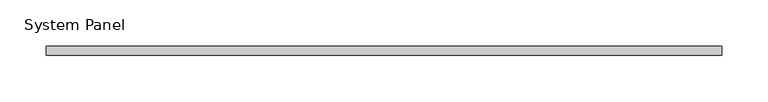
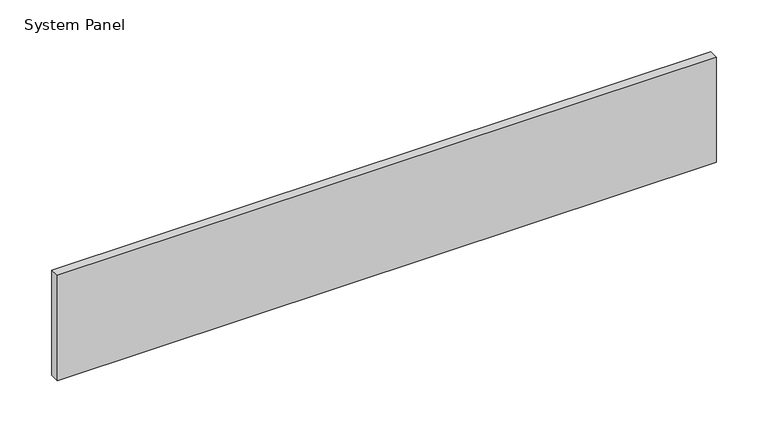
"""IFC4 building model written with IfcOpenShell, lengths in millimetres: plate geometry, System Panel : VACÍO."""

from ifc_helpers import new_model, si_unit, origin, origin_with_axes, place, context, project, spatial, polyline, outline, extrude, source, transform, mapped, element, save


def system_panel_dc262884(model_context):
    return source(origin(), model_context, "Body", "SweptSolid", [
        extrude(outline(polyline([(365.7649215, -5.0), (-365.7649215, -5.0), (-365.7649215, 5.0), (365.7649215, 5.0), (365.7649215, -5.0)])), origin_with_axes(), (0.0, 0.0, 1.0), 123.5),
    ])


if __name__ == "__main__":
    model = new_model("IFC4")
    model_context = context("Model", 3, world=origin())
    ifc_project = project(units=[si_unit("LENGTHUNIT", "METRE", prefix="MILLI")], contexts=[model_context])
    site = spatial("IfcSite", under=ifc_project)
    building = spatial("IfcBuilding", under=site)
    placement = place(None, origin())
    system_panel_shape = system_panel_dc262884(model_context)
    element("IfcPlate", 1, ObjectType="System Panel : VACÍO", at=placement, inside=building, context=model_context, shape_type="MappedRepresentation", body=[
        mapped(system_panel_shape, transform((0.0, 0.0, 0.0), x_axis=(1.0, 0.0, 0.0), y_axis=(0.0, 1.0, 0.0), z_axis=(0.0, 0.0, 1.0))),
    ])
    save(model, "model.ifc")
